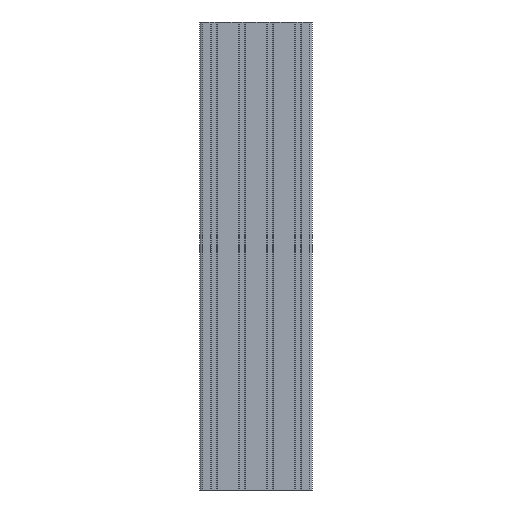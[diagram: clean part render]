
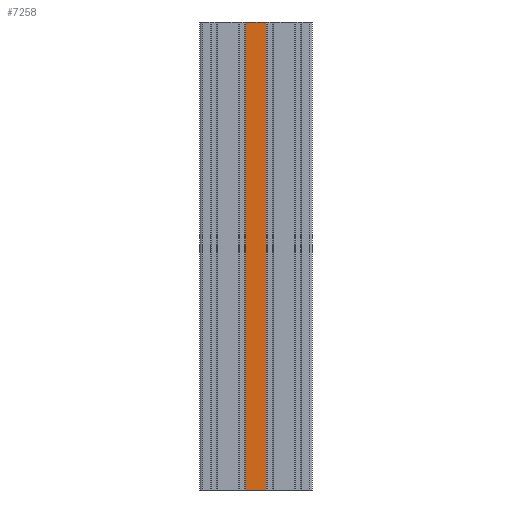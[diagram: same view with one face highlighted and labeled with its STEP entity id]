
A CAD part, front view. The second image highlights one B-rep face of the part: STEP entity #7258.
In plain terms, the highlighted planar face has unit normal (0, -1, 0).
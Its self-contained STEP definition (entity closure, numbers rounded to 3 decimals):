
#1173 = CARTESIAN_POINT ( 'NONE',  ( -10.9, -15., 250. ) ) ;
#1831 = AXIS2_PLACEMENT_3D ( 'NONE', #12120, #2542, #2591 ) ;
#2134 = DIRECTION ( 'NONE',  ( 0., 0., 1. ) ) ;
#2407 = VECTOR ( 'NONE', #2134, 1000. ) ;
#2495 = PLANE ( 'NONE',  #1831 ) ;
#2542 = DIRECTION ( 'NONE',  ( 0., -1., 0. ) ) ;
#2591 = DIRECTION ( 'NONE',  ( 1., 0., 0. ) ) ;
#3065 = CARTESIAN_POINT ( 'NONE',  ( 10.9, -15., -250. ) ) ;
#4331 = VECTOR ( 'NONE', #10462, 1000. ) ;
#4446 = EDGE_CURVE ( 'NONE', #5722, #11091, #9630, .T. ) ;
#4719 = LINE ( 'NONE', #3065, #2407 ) ;
#5046 = VERTEX_POINT ( 'NONE', #7847 ) ;
#5694 = LINE ( 'NONE', #12200, #11673 ) ;
#5722 = VERTEX_POINT ( 'NONE', #12651 ) ;
#5795 = DIRECTION ( 'NONE',  ( 1., 0., 0. ) ) ;
#5898 = VECTOR ( 'NONE', #10258, 1000. ) ;
#6414 = ORIENTED_EDGE ( 'NONE', *, *, #4446, .F. ) ;
#7258 = ADVANCED_FACE ( 'NONE', ( #10221 ), #2495, .T. ) ;
#7382 = LINE ( 'NONE', #13440, #5898 ) ;
#7847 = CARTESIAN_POINT ( 'NONE',  ( 10.9, -15., 250. ) ) ;
#8462 = EDGE_CURVE ( 'NONE', #5722, #5046, #4719, .T. ) ;
#8950 = EDGE_CURVE ( 'NONE', #10407, #5046, #5694, .T. ) ;
#9457 = CARTESIAN_POINT ( 'NONE',  ( -60., -15., -250. ) ) ;
#9630 = LINE ( 'NONE', #9457, #4331 ) ;
#9693 = ORIENTED_EDGE ( 'NONE', *, *, #8950, .F. ) ;
#10221 = FACE_OUTER_BOUND ( 'NONE', #12952, .T. ) ;
#10258 = DIRECTION ( 'NONE',  ( 0., 0., 1. ) ) ;
#10407 = VERTEX_POINT ( 'NONE', #1173 ) ;
#10423 = ORIENTED_EDGE ( 'NONE', *, *, #8462, .T. ) ;
#10462 = DIRECTION ( 'NONE',  ( -1., 0., 0. ) ) ;
#11091 = VERTEX_POINT ( 'NONE', #13219 ) ;
#11673 = VECTOR ( 'NONE', #5795, 1000. ) ;
#11734 = EDGE_CURVE ( 'NONE', #11091, #10407, #7382, .T. ) ;
#12120 = CARTESIAN_POINT ( 'NONE',  ( -60., -15., -373.693 ) ) ;
#12200 = CARTESIAN_POINT ( 'NONE',  ( -60., -15., 250. ) ) ;
#12374 = ORIENTED_EDGE ( 'NONE', *, *, #11734, .F. ) ;
#12651 = CARTESIAN_POINT ( 'NONE',  ( 10.9, -15., -250. ) ) ;
#12952 = EDGE_LOOP ( 'NONE', ( #6414, #10423, #9693, #12374 ) ) ;
#13219 = CARTESIAN_POINT ( 'NONE',  ( -10.9, -15., -250. ) ) ;
#13440 = CARTESIAN_POINT ( 'NONE',  ( -10.9, -15., -250. ) ) ;
